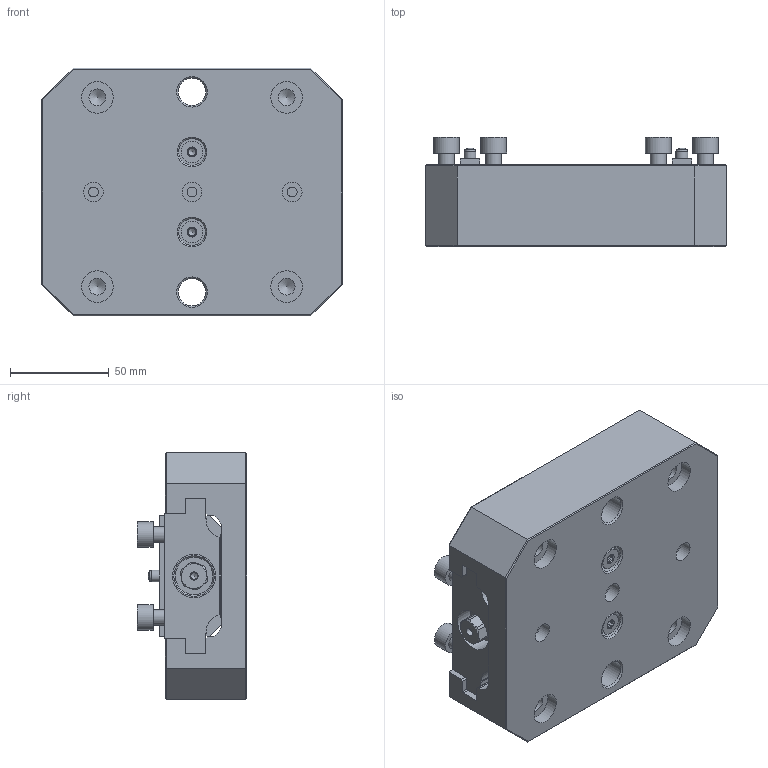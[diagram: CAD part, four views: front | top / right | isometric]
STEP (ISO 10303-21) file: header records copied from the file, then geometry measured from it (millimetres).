
FILE_DESCRIPTION (( 'STEP AP214' ), '1' );
FILE_NAME ('V562X-NJ_WEBSITE.STEP', '2025-08-11T11:43:55', ( '' ), ( '' ), 'SwSTEP 2.0', 'SolidWorks 2025', '' );
FILE_SCHEMA (( 'AUTOMOTIVE_DESIGN' ));
Length unit declared in the file: inch
Products named in the file (12): V562X-NJ_WEBSITE; M6X12.DP_WEBSITE_91595A440; HW.76232_WEBSITE_91290A418; SB5VX_WEBSITE; M6X6MM.SHCS_WEBSITE_M6X6MM.SHCS; V562X-2_WEBSITE_V562X-2R OP2; V562X-1_WEBSITE_V562X-1; HW.M6C_WEBSITE; V562MX-3_WEBSITE_V562M-3; V562M-4_WEBSITE_V562M-4; V562X-2_WEBSITE_V562X-2L OP2; V56124-6_WEBSITE_V56124-6
Assembly tree (21 placements, depth 2):
  V562X-NJ_WEBSITE
    V562X-1_WEBSITE_V562X-1
    V562MX-3_WEBSITE_V562M-3
    V562M-4_WEBSITE_V562M-4
    V562X-2_WEBSITE_V562X-2R OP2
    V562X-2_WEBSITE_V562X-2L OP2
    V56124-6_WEBSITE_V56124-6  x2
    M6X6MM.SHCS_WEBSITE_M6X6MM.SHCS
    HW.M6C_WEBSITE
    SB5VX_WEBSITE  x2
    HW.76232_WEBSITE_91290A418  x8
    M6X12.DP_WEBSITE_91595A440  x2
Bounding box: 152.4 x 55.39 x 125.73 mm (x, y, z)
Volume: 623416.5 mm3; surface area: 136669.4 mm2
Topology: 21 solids, 21 shells, 653 faces, 1530 edges, 979 vertices
Faces by surface type: plane 384, cylinder 137, cone 120, bspline 5, sphere 4, torus 3
Full cylindrical faces by diameter (mm): 3.454 x1, 4.039 x2, 4.166 x1, 5 x5, 5.131 x1, 6 x5, 6.015 x2, 6.4 x1, 6.8 x8, 7.112 x1, 7.925 x2, 7.95 x2, 8 x16, 8.5 x4, 10 x1, 10.013 x3, 10.033 x1, 10.5 x1, 11 x2, 13 x8, 13.487 x2, 13.894 x2, 16.015 x4, 17.462 x2, 18.923 x2, 19.05 x2, 19.558 x2, 20.637 x2, 22 x2, 22.289 x2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
Entity records: 15796 total; most frequent: CARTESIAN_POINT 2839, DIRECTION 2090, ORIENTED_EDGE 1864, EDGE_CURVE 932, AXIS2_PLACEMENT_3D 761, VERTEX_POINT 670, EDGE_LOOP 636, LINE 568
